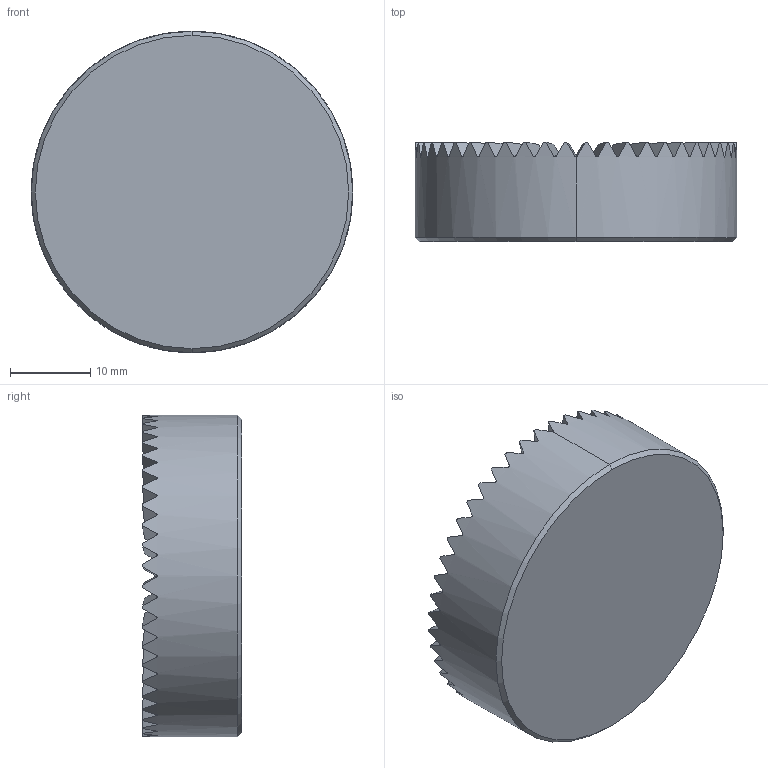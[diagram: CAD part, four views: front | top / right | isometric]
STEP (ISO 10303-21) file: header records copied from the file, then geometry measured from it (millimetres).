
FILE_DESCRIPTION (( 'STEP AP214' ), '1' );
FILE_NAME ('187.4-40-48-E-NI.step', '2023-01-09T09:43:33', ( '' ), ( '' ), 'SwSTEP 2.0', 'SolidWorks 2022', '' );
FILE_SCHEMA (( 'AUTOMOTIVE_DESIGN' ));
Length unit declared in the file: millimetre
Products named in the file (1): 187.4-40-48-E-NI
Bounding box: 40 x 12.35 x 40 mm (x, y, z)
Volume: 13367.9 mm3; surface area: 4481.8 mm2
Topology: 1 solids, 1 shells, 202 faces, 596 edges, 396 vertices
Faces by surface type: plane 98, cylinder 54, cone 50
Entity records: 8650 total; most frequent: CARTESIAN_POINT 4093, ORIENTED_EDGE 1192, DIRECTION 714, EDGE_CURVE 596, VERTEX_POINT 396, AXIS2_PLACEMENT_3D 305, EDGE_LOOP 202, ADVANCED_FACE 202
